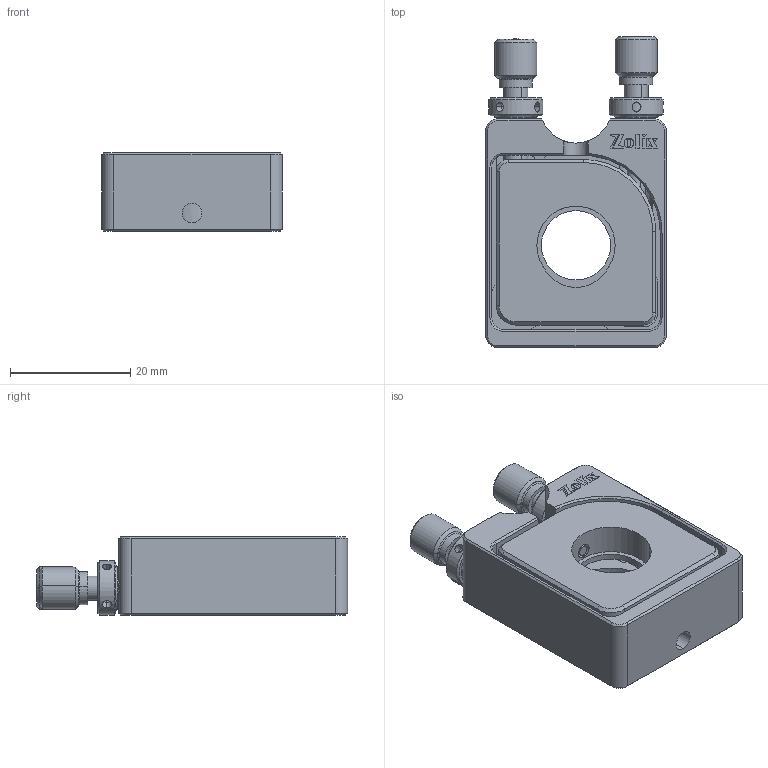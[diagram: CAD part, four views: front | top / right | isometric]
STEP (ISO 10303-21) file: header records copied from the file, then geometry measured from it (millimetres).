
FILE_DESCRIPTION (( 'STEP AP203' ), '1' );
FILE_NAME ('NMV12.7.step', '2019-05-10T01:16:02', ( 'User' ), ( 'User' ), 'SwSTEP 2.0', 'SolidWorks 2016', '' );
FILE_SCHEMA (( 'CONFIG_CONTROL_DESIGN' ));
Length unit declared in the file: millimetre
Products named in the file (1): NMV12.7
Bounding box: 30 x 51.73 x 13 mm (x, y, z)
Surface area: 8417.4 mm2 (no closed solid volume)
Topology: 0 solids, 25 shells, 310 faces, 1148 edges, 839 vertices
Faces by surface type: plane 132, cylinder 102, cone 60, sphere 8, torus 8
Entity records: 12521 total; most frequent: CARTESIAN_POINT 2806, DIRECTION 2047, ORIENTED_EDGE 1795, EDGE_CURVE 1130, VERTEX_POINT 833, LINE 703, VECTOR 703, AXIS2_PLACEMENT_3D 672
